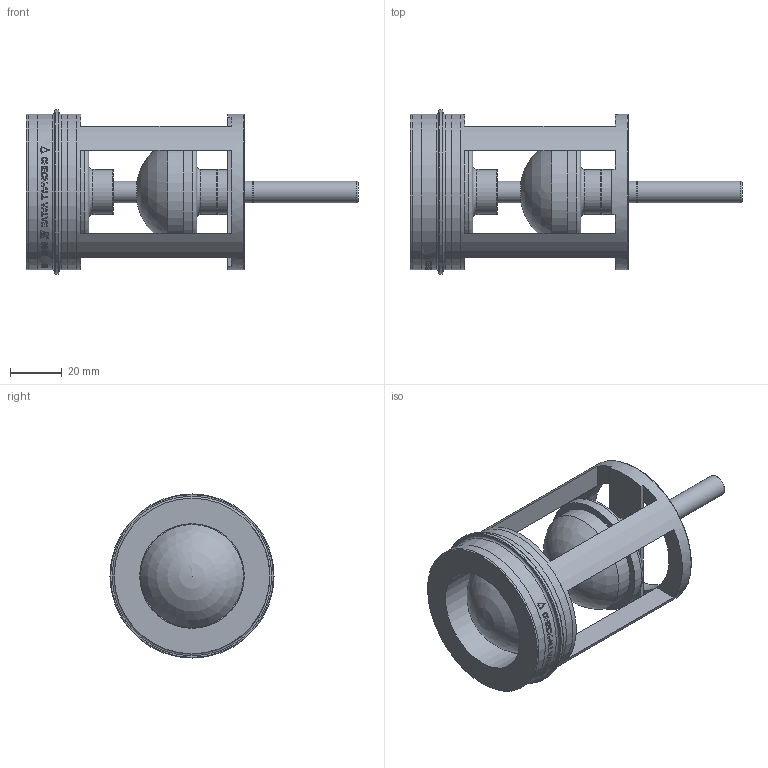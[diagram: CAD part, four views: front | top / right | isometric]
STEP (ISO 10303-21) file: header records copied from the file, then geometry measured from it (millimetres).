
FILE_DESCRIPTION(/* description */ ('Unknown'),/* implementation_level */ '2;1');
FILE_NAME(/* name */ '3SL',/* time_stamp */ '2024-07-31T15:57:17-05:00',/* author */ ('Unknown'),/* organization */ ('Unknown'),/* preprocessor_version */ 'ST-DEVELOPER v19.4',/* originating_system */ 'Solid Edge',/* authorisation */ 'Unknown');
FILE_SCHEMA (('AUTOMOTIVE_DESIGN {1 0 10303 214 3 1 1}'));
Length unit declared in the file: millimetre
Products named in the file (1): 3SL
Bounding box: 128.47 x 63.5 x 63.5 mm (x, y, z)
Volume: 109650.4 mm3; surface area: 32995.4 mm2
Topology: 1 solids, 1 shells, 314 faces, 786 edges, 518 vertices
Faces by surface type: plane 151, bspline 93, cylinder 55, torus 13, sphere 2
Full cylindrical faces by diameter (mm): 8.458 x3, 8.484 x1, 17.45 x3, 39.903 x1, 40.513 x1, 45.441 x2, 45.466 x1, 60.173 x4, 60.198 x2, 63.5 x1
Entity records: 15030 total; most frequent: CARTESIAN_POINT 6945, ORIENTED_EDGE 1472, EDGE_CURVE 736, B_SPLINE_CURVE_WITH_KNOTS 626, DIRECTION 622, VERTEX_POINT 509, EDGE_LOOP 411, FACE_BOUND 411
